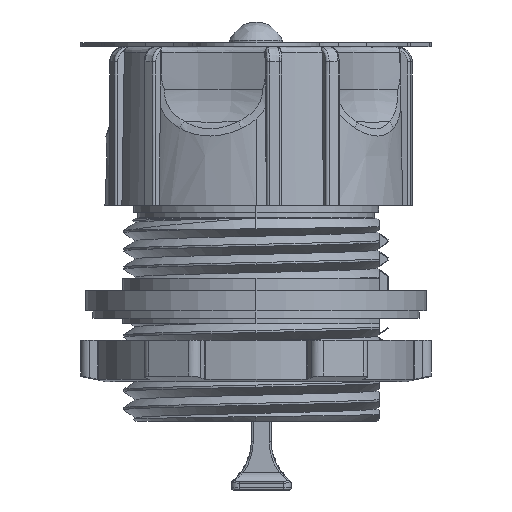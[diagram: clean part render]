
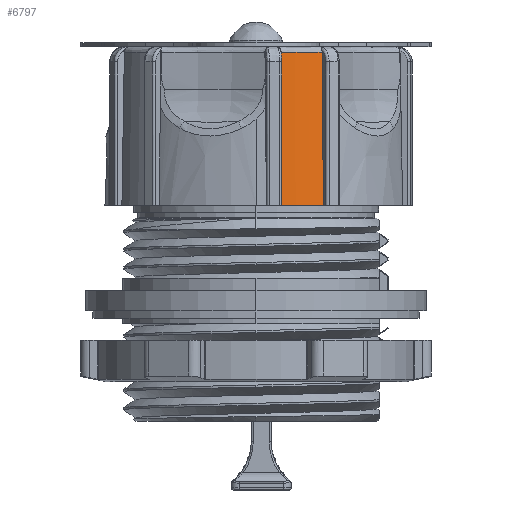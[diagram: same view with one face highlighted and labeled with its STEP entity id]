
A CAD part, left-side view. The second image highlights one B-rep face of the part: STEP entity #6797.
In plain terms, the highlighted conical face has half-angle 1 degrees and reference radius 15.062 mm.
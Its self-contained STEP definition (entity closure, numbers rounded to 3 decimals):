
#89 = ORIENTED_EDGE ( 'NONE', *, *, #23487, .T. ) ;
#1006 = CARTESIAN_POINT ( 'NONE',  ( -14.854, -2.495, 1.076 ) ) ;
#1331 = VERTEX_POINT ( 'NONE', #15078 ) ;
#1840 = B_SPLINE_CURVE_WITH_KNOTS ( 'NONE', 3,
 ( #20899, #3977, #16934, #20644 ),
 .UNSPECIFIED., .F., .F.,
 ( 4, 4 ),
 ( 0., 1. ),
 .UNSPECIFIED. ) ;
#2556 = ORIENTED_EDGE ( 'NONE', *, *, #17007, .T. ) ;
#3434 = CARTESIAN_POINT ( 'NONE',  ( -13.406, -6.669, 6.158 ) ) ;
#3977 = CARTESIAN_POINT ( 'NONE',  ( -14.146, -5.382, 1.076 ) ) ;
#4059 = CARTESIAN_POINT ( 'NONE',  ( -13.251, -6.582, 16.323 ) ) ;
#4424 = CARTESIAN_POINT ( 'NONE',  ( -13.484, -6.713, 1.076 ) ) ;
#4428 = EDGE_CURVE ( 'NONE', #6501, #1331, #14016, .T. ) ;
#4581 = DIRECTION ( 'NONE',  ( -1., 0., 0. ) ) ;
#4715 = CIRCLE ( 'NONE', #7471, 14.796 ) ;
#4855 = CARTESIAN_POINT ( 'NONE',  ( -14.766, -2.485, 6.158 ) ) ;
#5003 = VERTEX_POINT ( 'NONE', #16927 ) ;
#6501 = VERTEX_POINT ( 'NONE', #4424 ) ;
#6797 = ADVANCED_FACE ( 'NONE', ( #9087 ), #18350, .T. ) ;
#7471 = AXIS2_PLACEMENT_3D ( 'NONE', #13576, #15686, #4581 ) ;
#8022 = B_SPLINE_CURVE_WITH_KNOTS ( 'NONE', 3,
 ( #14590, #12611, #4855, #1006 ),
 .UNSPECIFIED., .F., .F.,
 ( 4, 4 ),
 ( 0., 1. ),
 .UNSPECIFIED. ) ;
#8232 = CARTESIAN_POINT ( 'NONE',  ( -14.854, -2.495, 1.076 ) ) ;
#9087 = FACE_OUTER_BOUND ( 'NONE', #20875, .T. ) ;
#10315 = ORIENTED_EDGE ( 'NONE', *, *, #4428, .T. ) ;
#10956 = CARTESIAN_POINT ( 'NONE',  ( -13.329, -6.626, 11.241 ) ) ;
#11627 = AXIS2_PLACEMENT_3D ( 'NONE', #18360, #14525, #16749 ) ;
#12611 = CARTESIAN_POINT ( 'NONE',  ( -14.678, -2.474, 11.241 ) ) ;
#13075 = VERTEX_POINT ( 'NONE', #8232 ) ;
#13576 = CARTESIAN_POINT ( 'NONE',  ( 0., 0., 16.323 ) ) ;
#14016 = B_SPLINE_CURVE_WITH_KNOTS ( 'NONE', 3,
 ( #20360, #3434, #10956, #4059 ),
 .UNSPECIFIED., .F., .F.,
 ( 4, 4 ),
 ( 0., 1. ),
 .UNSPECIFIED. ) ;
#14525 = DIRECTION ( 'NONE',  ( 0., 0., -1. ) ) ;
#14590 = CARTESIAN_POINT ( 'NONE',  ( -14.589, -2.464, 16.323 ) ) ;
#15078 = CARTESIAN_POINT ( 'NONE',  ( -13.251, -6.582, 16.323 ) ) ;
#15686 = DIRECTION ( 'NONE',  ( 0., 0., -1. ) ) ;
#16151 = ORIENTED_EDGE ( 'NONE', *, *, #23605, .F. ) ;
#16749 = DIRECTION ( 'NONE',  ( -1., 0., 0. ) ) ;
#16927 = CARTESIAN_POINT ( 'NONE',  ( -14.589, -2.464, 16.323 ) ) ;
#16934 = CARTESIAN_POINT ( 'NONE',  ( -14.608, -3.962, 1.076 ) ) ;
#17007 = EDGE_CURVE ( 'NONE', #1331, #5003, #4715, .T. ) ;
#18350 = CONICAL_SURFACE ( 'NONE', #11627, 15.062, 0.017 ) ;
#18360 = CARTESIAN_POINT ( 'NONE',  ( 0., 0., 1.076 ) ) ;
#20360 = CARTESIAN_POINT ( 'NONE',  ( -13.484, -6.713, 1.076 ) ) ;
#20644 = CARTESIAN_POINT ( 'NONE',  ( -14.854, -2.495, 1.076 ) ) ;
#20875 = EDGE_LOOP ( 'NONE', ( #89, #16151, #10315, #2556 ) ) ;
#20899 = CARTESIAN_POINT ( 'NONE',  ( -13.484, -6.713, 1.076 ) ) ;
#23487 = EDGE_CURVE ( 'NONE', #5003, #13075, #8022, .T. ) ;
#23605 = EDGE_CURVE ( 'NONE', #6501, #13075, #1840, .T. ) ;
